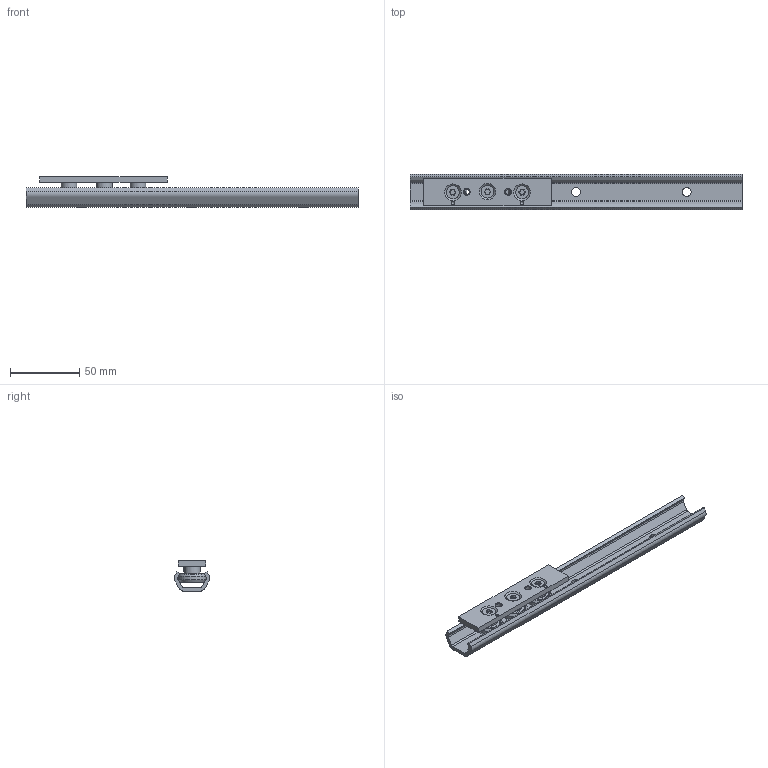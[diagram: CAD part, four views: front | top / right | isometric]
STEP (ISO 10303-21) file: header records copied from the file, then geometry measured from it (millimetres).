
FILE_DESCRIPTION( ( 'STEP AP214' ), '1' );
FILE_NAME( 'p:/temp/worker_3/temp/exporttempdir_84640_107_rCiGY/format_1/TEN26-0240-CEN26-92.stp', '2020-05-08T15:47:34', ( 'License CC BY-ND 4.0' ), ( 'CADENAS' ), ' ', 'PARTsolutions', ' ' );
FILE_SCHEMA( ( 'AUTOMOTIVE_DESIGN { 1 0 10303 214 1 1 1 1 }' ) );
Length unit declared in the file: millimetre
Products named in the file (6): TEN26-0240-CEN26-92; _TEN 26-240; _CEN26-92_1; _RLN26(11.2_M5); _RLA26(11.2_M5); _LAN-26
Assembly tree (8 placements, depth 2):
  TEN26-0240-CEN26-92
    _TEN 26-240
    _CEN26-92_1
    _RLN26(11.2_M5)  x2
    _RLA26(11.2_M5)
    _LAN-26  x3
Bounding box: 240 x 26 x 22 mm (x, y, z)
Volume: 38523.2 mm3; surface area: 30828.4 mm2
Topology: 8 solids, 8 shells, 236 faces, 510 edges, 317 vertices
Faces by surface type: plane 131, cylinder 72, cone 24, bspline 9
Full cylindrical faces by diameter (mm): 2.5 x2, 4.134 x5, 4.5 x3, 5 x6, 6.5 x3, 9.3 x3, 11.2 x6, 11.6 x6, 15.7 x6, 16.7 x6
Entity records: 5384 total; most frequent: CARTESIAN_POINT 800, DIRECTION 730, ORIENTED_EDGE 546, AXIS2_PLACEMENT_3D 301, EDGE_CURVE 273, EDGE_LOOP 244, VERTEX_POINT 203, FACE_OUTER_BOUND 190
